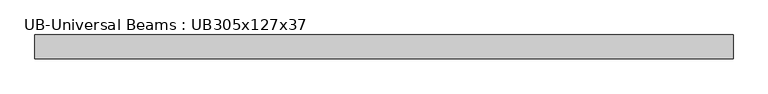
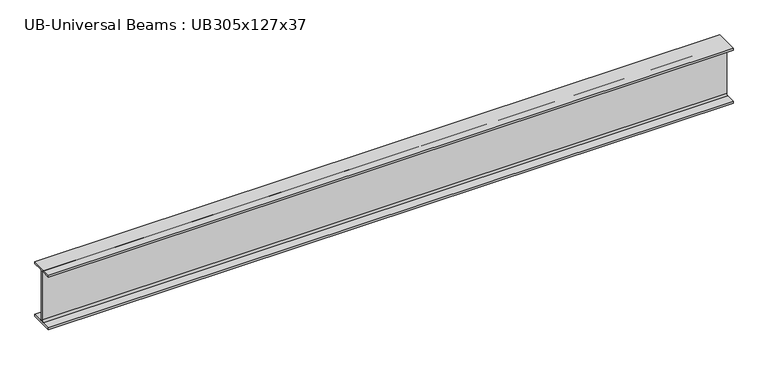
"""IFC4 building model written with IfcOpenShell, lengths in millimetres: beam geometry, UB-Universal Beams : UB305x127x37."""

from ifc_helpers import new_model, si_unit, point, frame, frame_2d, origin, place, context, project, spatial, polyline, circle_curve, trimmed, segment, composite_curve, outline, extrude, source, transform, mapped, element, save


def ub_universal_beams_ub305x127x37_95b6a02e(model_context):
    return source(origin(), model_context, "Body", "SweptSolid", [
        extrude(outline(composite_curve([segment(polyline([(61.7, -141.5), (61.7, -152.2), (-61.7, -152.2), (-61.7, -141.5), (-12.45, -141.5)]), True, "CONTINUOUS"), segment(trimmed(circle_curve(frame_2d((-12.45, -132.6)), 8.9), [point((-12.45, -141.5))], [point((-3.55, -132.6))], True, "CARTESIAN"), True, "CONTINUOUS"), segment(polyline([(-3.55, -132.6), (-3.55, 132.6)]), True, "CONTINUOUS"), segment(trimmed(circle_curve(frame_2d((-12.45, 132.6)), 8.9), [point((-3.55, 132.6))], [point((-12.45, 141.5))], True, "CARTESIAN"), True, "CONTINUOUS"), segment(polyline([(-12.45, 141.5), (-61.7, 141.5), (-61.7, 152.2), (61.7, 152.2), (61.7, 141.5), (12.45, 141.5)]), True, "CONTINUOUS"), segment(trimmed(circle_curve(frame_2d((12.45, 132.6)), 8.9), [point((12.45, 141.5))], [point((3.55, 132.6))], True, "CARTESIAN"), True, "CONTINUOUS"), segment(polyline([(3.55, 132.6), (3.55, -132.6)]), True, "CONTINUOUS"), segment(trimmed(circle_curve(frame_2d((12.45, -132.6)), 8.9), [point((3.55, -132.6))], [point((12.45, -141.5))], True, "CARTESIAN"), True, "CONTINUOUS"), segment(polyline([(12.45, -141.5), (61.7, -141.5)]), True, "CONTINUOUS")], self_intersect=False)), frame((-1849.7, 0.0, 0.0), z_axis=(1.0, 0.0, 0.0), x_axis=(0.0, 1.0, 0.0)), (0.0, 0.0, 1.0), 3599.5),
    ])


if __name__ == "__main__":
    model = new_model("IFC4")
    model_context = context("Model", 3, world=origin())
    ifc_project = project(units=[si_unit("LENGTHUNIT", "METRE", prefix="MILLI")], contexts=[model_context])
    site = spatial("IfcSite", under=ifc_project)
    building = spatial("IfcBuilding", under=site)
    placement = place(None, origin())
    ub_universal_beams_ub305x127x37_shape = ub_universal_beams_ub305x127x37_95b6a02e(model_context)
    element("IfcBeam", 1, ObjectType="UB-Universal Beams : UB305x127x37", at=placement, inside=building, context=model_context, shape_type="MappedRepresentation", body=[
        mapped(ub_universal_beams_ub305x127x37_shape, transform((0.0, 0.0, 0.0), x_axis=(1.0, 0.0, 0.0), y_axis=(0.0, 1.0, 0.0), z_axis=(0.0, 0.0, 1.0))),
    ])
    save(model, "model.ifc")
